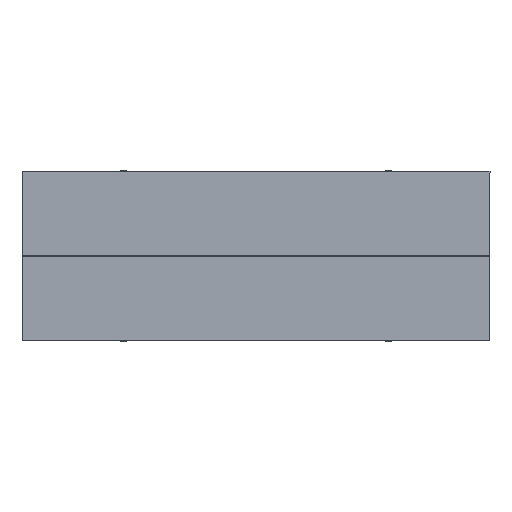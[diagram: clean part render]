
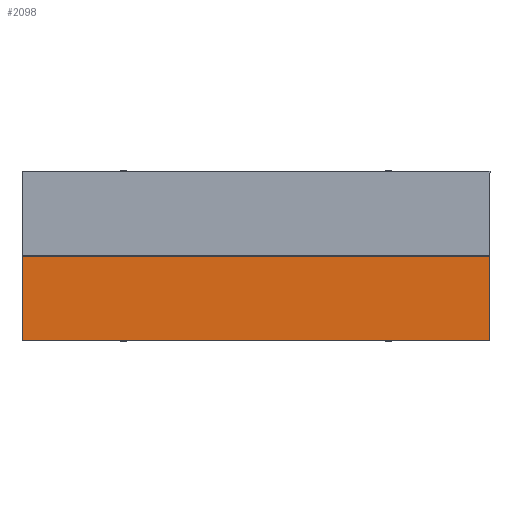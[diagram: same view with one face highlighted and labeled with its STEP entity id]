
A CAD part, top view. The second image highlights one B-rep face of the part: STEP entity #2098.
In plain terms, the highlighted planar face has unit normal (0, 0, 1).
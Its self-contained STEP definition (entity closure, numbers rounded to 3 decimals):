
#862=B_SPLINE_CURVE_WITH_KNOTS('',1,(#14536,#14537),.UNSPECIFIED.,.F.,.F.,
(2,2),(0.,397.5),.UNSPECIFIED.);
#866=B_SPLINE_CURVE_WITH_KNOTS('',1,(#14544,#14545),.UNSPECIFIED.,.F.,.F.,
(2,2),(0.,397.5),.UNSPECIFIED.);
#867=B_SPLINE_CURVE_WITH_KNOTS('',1,(#14546,#14547),.UNSPECIFIED.,.F.,.F.,
(2,2),(0.,2200.),.UNSPECIFIED.);
#868=B_SPLINE_CURVE_WITH_KNOTS('',1,(#14548,#14549),.UNSPECIFIED.,.F.,.F.,
(2,2),(0.,2200.),.UNSPECIFIED.);
#2098=ADVANCED_FACE('',(#2770),#10242,.T.);
#2770=FACE_OUTER_BOUND('',#3490,.T.);
#3490=EDGE_LOOP('',(#5488,#5489,#5490,#5491));
#5488=ORIENTED_EDGE('',*,*,#7925,.T.);
#5489=ORIENTED_EDGE('',*,*,#7923,.F.);
#5490=ORIENTED_EDGE('',*,*,#7924,.F.);
#5491=ORIENTED_EDGE('',*,*,#7919,.F.);
#7919=EDGE_CURVE('',#9368,#9369,#862,.T.);
#7923=EDGE_CURVE('',#9371,#9370,#866,.T.);
#7924=EDGE_CURVE('',#9369,#9371,#867,.T.);
#7925=EDGE_CURVE('',#9368,#9370,#868,.T.);
#9368=VERTEX_POINT('',#14522);
#9369=VERTEX_POINT('',#14523);
#9370=VERTEX_POINT('',#14524);
#9371=VERTEX_POINT('',#14525);
#10242=PLANE('',#11006);
#11006=AXIS2_PLACEMENT_3D('',#14516,#11681,$);
#11681=DIRECTION('',(0.,0.,1.));
#14516=CARTESIAN_POINT('',(1320.012,37.668,734.819));
#14522=CARTESIAN_POINT('',(1100.,-2.094,734.819));
#14523=CARTESIAN_POINT('',(1100.,-399.594,734.819));
#14524=CARTESIAN_POINT('',(-1100.,-2.094,734.819));
#14525=CARTESIAN_POINT('',(-1100.,-399.594,734.819));
#14536=CARTESIAN_POINT('',(1100.,-2.094,734.819));
#14537=CARTESIAN_POINT('',(1100.,-399.594,734.819));
#14544=CARTESIAN_POINT('',(-1100.,-399.594,734.819));
#14545=CARTESIAN_POINT('',(-1100.,-2.094,734.819));
#14546=CARTESIAN_POINT('',(1100.,-399.594,734.819));
#14547=CARTESIAN_POINT('',(-1100.,-399.594,734.819));
#14548=CARTESIAN_POINT('',(1100.,-2.094,734.819));
#14549=CARTESIAN_POINT('',(-1100.,-2.094,734.819));
